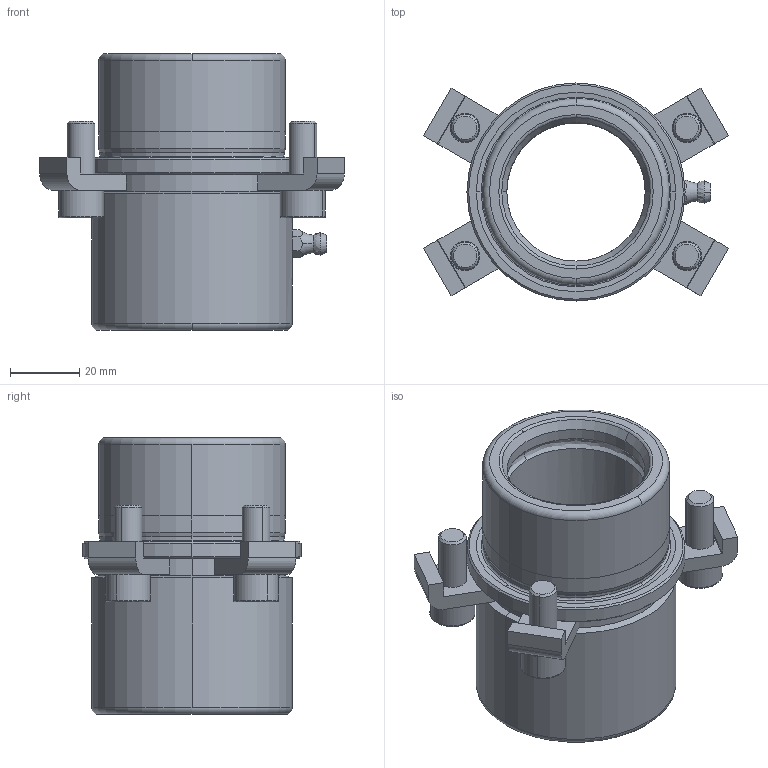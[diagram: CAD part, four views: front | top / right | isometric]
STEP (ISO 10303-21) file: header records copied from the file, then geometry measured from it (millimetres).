
FILE_DESCRIPTION((''),'2;1');
FILE_NAME('B10_040_050.stp','2008-11-06T08:55:12',(''),(''),'Mechanical Desktop 2009','Mechanical Desktop 2009',', , ');
FILE_SCHEMA(('CONFIG_CONTROL_DESIGN'));
Length unit declared in the file: millimetre
Products named in the file (2): Product; blmdl1
Assembly tree (1 placements, depth 2):
  Product
    blmdl1
Bounding box: 88.14 x 63 x 80 mm (x, y, z)
Volume: 112320.9 mm3; surface area: 37683 mm2
Topology: 10 solids, 10 shells, 210 faces, 529 edges, 348 vertices
Faces by surface type: plane 90, cylinder 60, cone 24, bspline 18, torus 18
Entity records: 7642 total; most frequent: CARTESIAN_POINT 2348, DIRECTION 1151, ORIENTED_EDGE 1050, EDGE_CURVE 525, AXIS2_PLACEMENT_3D 449, VERTEX_POINT 346, CIRCLE 255, VECTOR 253
